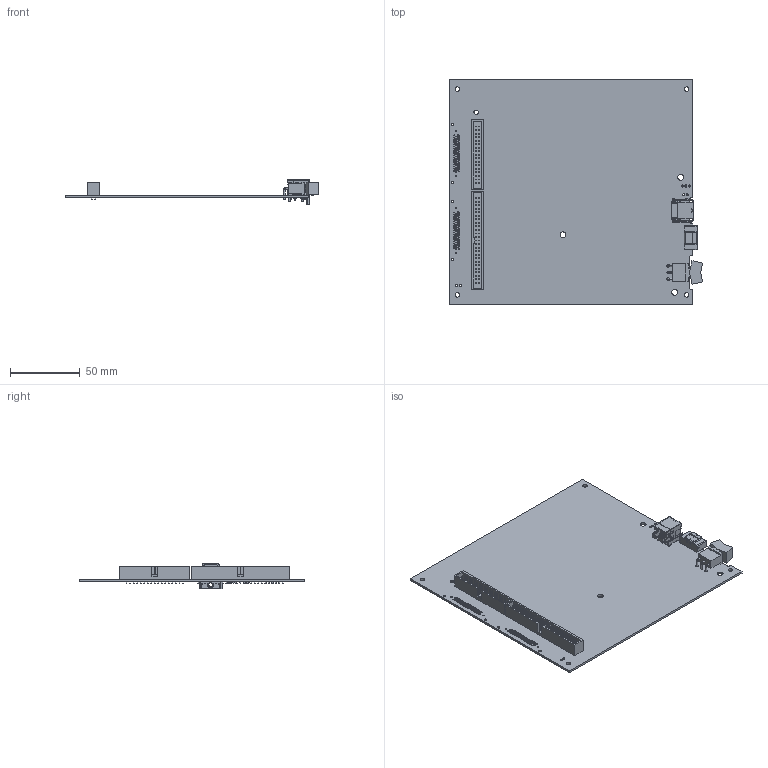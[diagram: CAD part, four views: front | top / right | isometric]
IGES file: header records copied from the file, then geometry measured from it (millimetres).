
Start section:  PTC IGES file: cu_usb-6341_oem.igs
Global section: file name: cu_usb-6341_oem.igs; native system: Creo Parametric by PTC Inc.; preprocessor: 2015380; author: dkendric; organization: Unknown; date: 20170202.142302; units: inch
Bounding box: 182.3 x 162.56 x 18.36 mm (x, y, z)
Surface area: 70452.2 mm2 (no closed solid volume)
Topology: 0 solids, 0 shells, 2812 faces, 15519 edges, 15477 vertices
Faces by surface type: bspline 1928, revolution 882, extrusion 2
